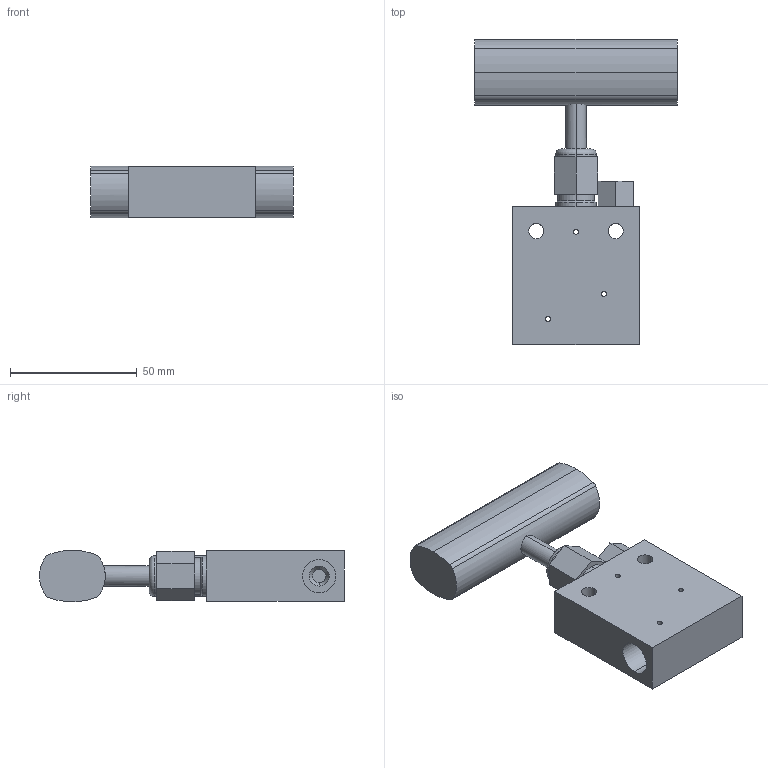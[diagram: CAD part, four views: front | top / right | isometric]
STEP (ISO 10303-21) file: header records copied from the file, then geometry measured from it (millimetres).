
FILE_DESCRIPTION (( 'STEP AP203' ), '1' );
FILE_NAME ('HRS-NV20VS06-S.STEP', '2024-01-15T05:01:47', ( '' ), ( '' ), 'SwSTEP 2.0', 'SolidWorks 2023', '' );
FILE_SCHEMA (( 'CONFIG_CONTROL_DESIGN' ));
Length unit declared in the file: millimetre
Products named in the file (1): HRS-NV20VS06-S
Bounding box: 80 x 120.45 x 20.33 mm (x, y, z)
Volume: 92152.3 mm3; surface area: 21352.1 mm2
Topology: 1 solids, 1 shells, 81 faces, 197 edges, 126 vertices
Faces by surface type: cylinder 43, plane 30, cone 6, torus 2
Entity records: 2784 total; most frequent: CARTESIAN_POINT 723, DIRECTION 429, ORIENTED_EDGE 394, EDGE_CURVE 197, AXIS2_PLACEMENT_3D 164, VERTEX_POINT 126, EDGE_LOOP 105, LINE 101
